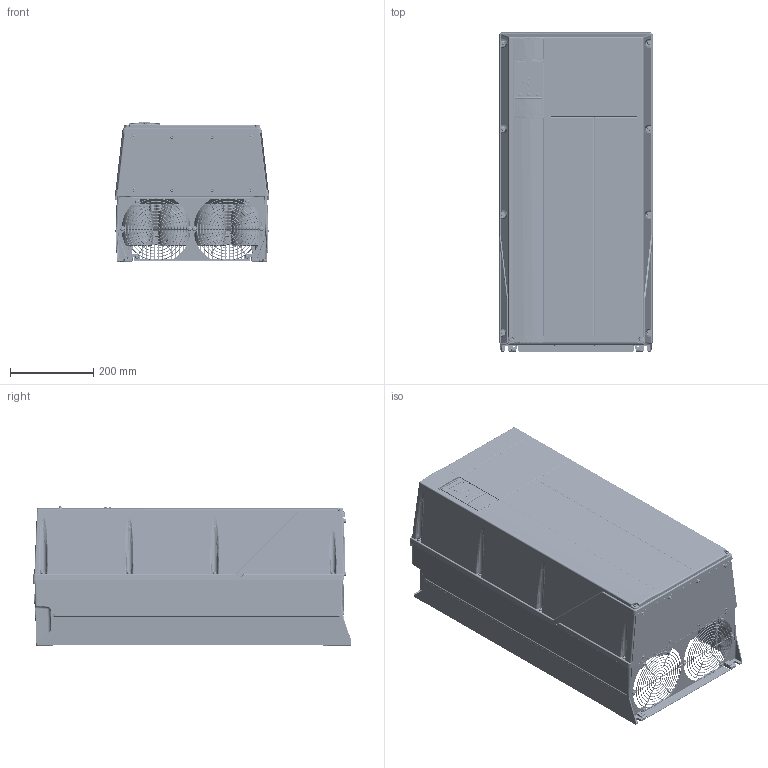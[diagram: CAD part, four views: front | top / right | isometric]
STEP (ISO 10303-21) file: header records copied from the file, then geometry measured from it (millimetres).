
FILE_DESCRIPTION((''),'2;1');
FILE_NAME('DANFOSS-FC101-I8-IP54','2011-09-22T',('madhu-selva'),(''),'PRO/ENGINEER BY PARAMETRIC TECHNOLOGY CORPORATION, 2009360','PRO/ENGINEER BY PARAMETRIC TECHNOLOGY CORPORATION, 2009360','');
FILE_SCHEMA(('CONFIG_CONTROL_DESIGN', 'GEOMETRIC_VALIDATION_PROPERTIES_MIM'));
Length unit declared in the file: millimetre
Products named in the file (1): DANFOSS-FC101-I8-IP54
Bounding box: 371.37 x 767.48 x 334.97 mm (x, y, z)
Volume: 65811990.9 mm3; surface area: 4191483.5 mm2
Topology: 1 solids, 78 shells, 7038 faces, 18042 edges, 11044 vertices
Faces by surface type: cylinder 2481, plane 2014, bspline 984, cone 681, torus 657, extrusion 132, sphere 89
Entity records: 309836 total; most frequent: CARTESIAN_POINT 146070, ORIENTED_EDGE 35596, DIRECTION 30726, EDGE_CURVE 17798, AXIS2_PLACEMENT_3D 11436, VERTEX_POINT 11044, VECTOR 7854, LINE 7722
